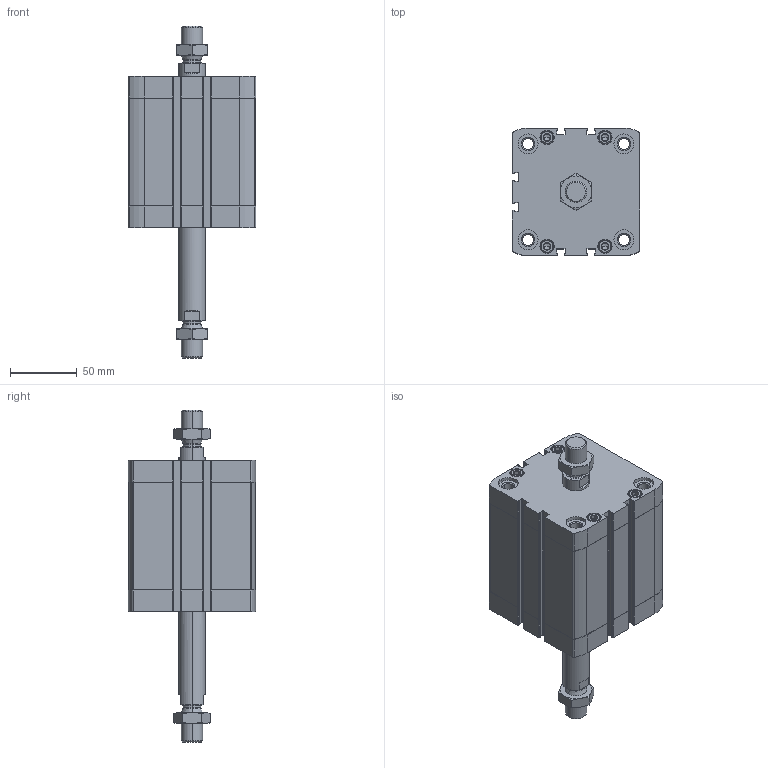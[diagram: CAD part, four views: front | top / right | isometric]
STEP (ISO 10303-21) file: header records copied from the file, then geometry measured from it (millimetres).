
FILE_DESCRIPTION (( 'STEP AP203' ), '1' );
FILE_NAME ('CCN80-60-P.STEP', '2020-06-22T19:07:20', ( '' ), ( '' ), 'SwSTEP 2.0', 'SolidWorks 2019', '' );
FILE_SCHEMA (( 'CONFIG_CONTROL_DESIGN' ));
Length unit declared in the file: millimetre
Products named in the file (1): CCN80-60-P
Bounding box: 95.5 x 95.5 x 249.2 mm (x, y, z)
Volume: 730244.2 mm3; surface area: 147753 mm2
Topology: 4 solids, 4 shells, 544 faces, 1352 edges, 848 vertices
Faces by surface type: plane 248, cylinder 196, cone 92, torus 8
Entity records: 17807 total; most frequent: CARTESIAN_POINT 4577, DIRECTION 2866, ORIENTED_EDGE 2672, EDGE_CURVE 1336, AXIS2_PLACEMENT_3D 1077, VERTEX_POINT 848, LINE 712, VECTOR 712
